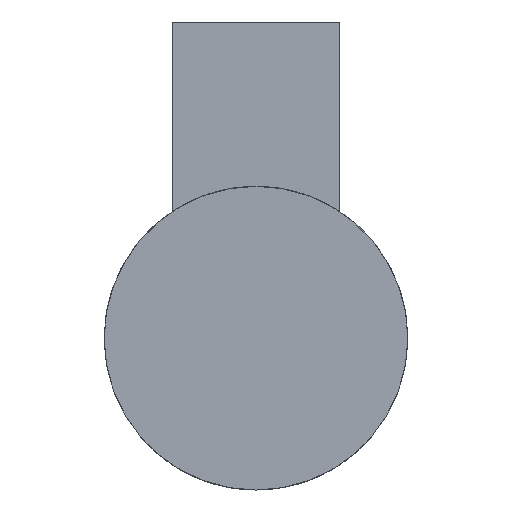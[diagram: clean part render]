
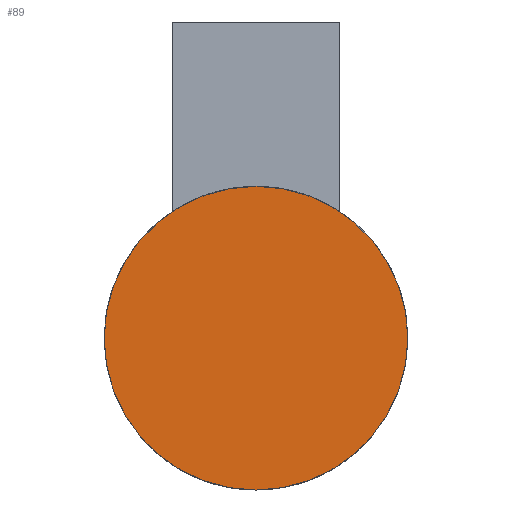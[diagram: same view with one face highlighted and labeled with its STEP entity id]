
A CAD part, left-side view. The second image highlights one B-rep face of the part: STEP entity #89.
In plain terms, the highlighted planar face has unit normal (-1, 0, 0).
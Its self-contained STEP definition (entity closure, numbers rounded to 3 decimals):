
#12 = CARTESIAN_POINT ( 'NONE',  ( 4., 9.88, 0. ) ) ;
#32 = AXIS2_PLACEMENT_3D ( 'NONE', #631, #625, #526 ) ;
#39 = EDGE_LOOP ( 'NONE', ( #453, #310 ) ) ;
#67 = PLANE ( 'NONE',  #234 ) ;
#74 = AXIS2_PLACEMENT_3D ( 'NONE', #708, #78, #115 ) ;
#78 = DIRECTION ( 'NONE',  ( 1., 0., 0. ) ) ;
#89 = ADVANCED_FACE ( 'NONE', ( #131 ), #67, .F. ) ;
#115 = DIRECTION ( 'NONE',  ( 0., 0., -1. ) ) ;
#125 = CIRCLE ( 'NONE', #32, 7.25 ) ;
#131 = FACE_OUTER_BOUND ( 'NONE', #39, .T. ) ;
#168 = VERTEX_POINT ( 'NONE', #450 ) ;
#190 = DIRECTION ( 'NONE',  ( 1., 0., 0. ) ) ;
#193 = EDGE_CURVE ( 'NONE', #265, #168, #125, .T. ) ;
#199 = CIRCLE ( 'NONE', #74, 7.25 ) ;
#234 = AXIS2_PLACEMENT_3D ( 'NONE', #12, #190, #305 ) ;
#265 = VERTEX_POINT ( 'NONE', #522 ) ;
#305 = DIRECTION ( 'NONE',  ( 0., 0., -1. ) ) ;
#310 = ORIENTED_EDGE ( 'NONE', *, *, #193, .F. ) ;
#450 = CARTESIAN_POINT ( 'NONE',  ( 4., 0., -7.25 ) ) ;
#453 = ORIENTED_EDGE ( 'NONE', *, *, #506, .F. ) ;
#506 = EDGE_CURVE ( 'NONE', #168, #265, #199, .T. ) ;
#522 = CARTESIAN_POINT ( 'NONE',  ( 4., 0., 7.25 ) ) ;
#526 = DIRECTION ( 'NONE',  ( 0., 0., -1. ) ) ;
#625 = DIRECTION ( 'NONE',  ( 1., 0., 0. ) ) ;
#631 = CARTESIAN_POINT ( 'NONE',  ( 4., 0., 0. ) ) ;
#708 = CARTESIAN_POINT ( 'NONE',  ( 4., 0., 0. ) ) ;
